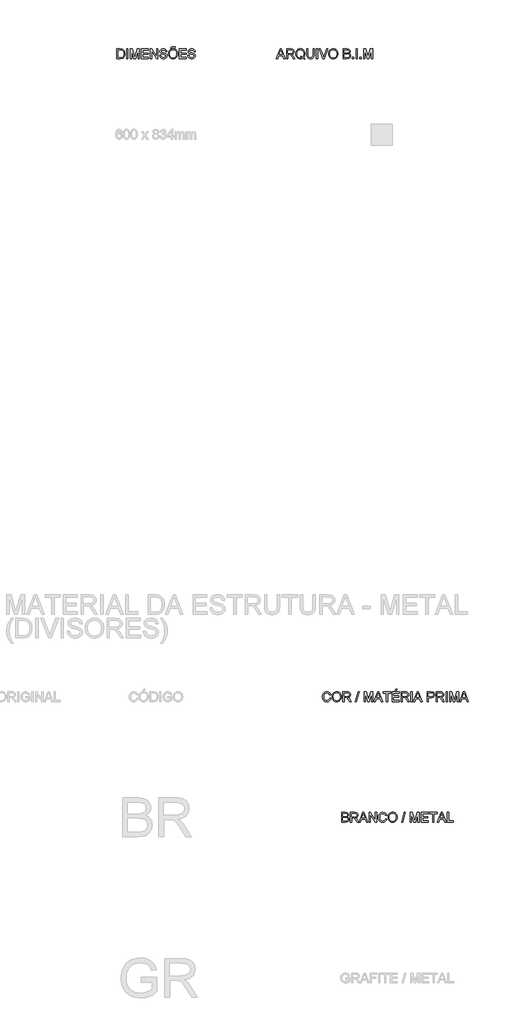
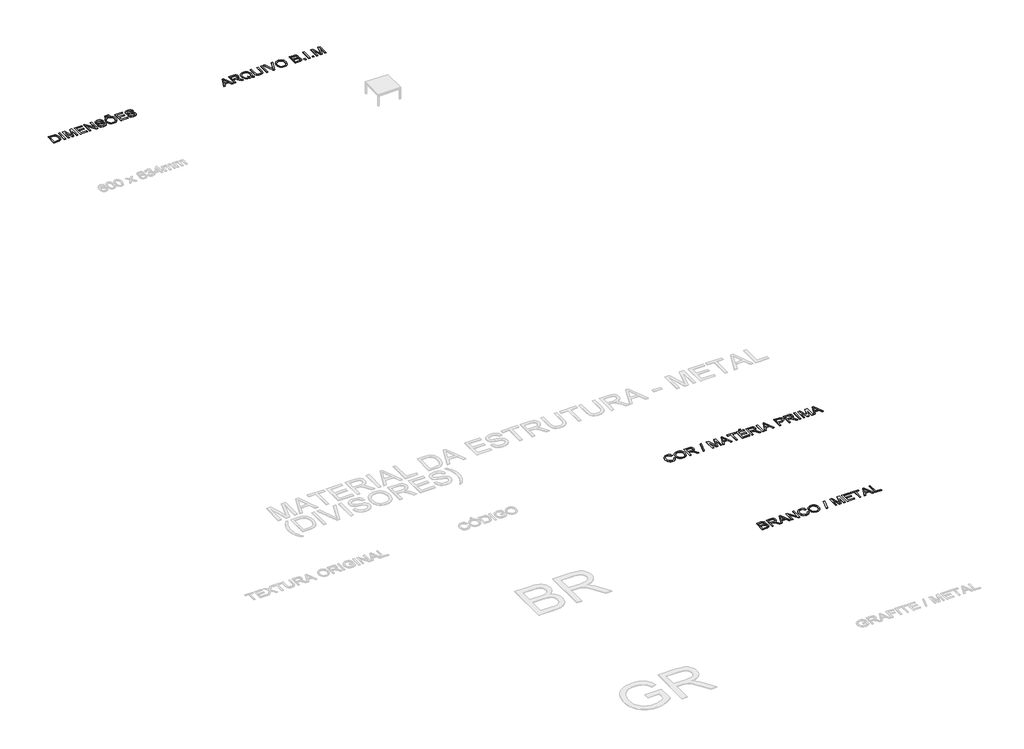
# One storey, part 60 of 67: 4 proxies.
"""IFC4 building model written with IfcOpenShell, lengths in millimetres."""

from ifc_helpers import new_model, si_unit, origin, origin_with_axes, place, context, project, spatial, polyline, outline, extrude, element, save

model = new_model("IFC4")

# Units and contexts
model_context = context("Model", 3, world=origin())
ifc_project = project(units=[si_unit("LENGTHUNIT", "METRE", prefix="MILLI")], contexts=[model_context])

# Site, building, storey
site = spatial("IfcSite", under=ifc_project)
building = spatial("IfcBuilding", under=site)
storey = spatial("IfcBuildingStorey", under=building, Name="Marelli - Linha COLAB - Planta Baixa", Elevation=0.0)

# Proxies
placement = place(None, origin())
element("IfcBuildingElementProxy", 1, Name="300mm Arial", ObjectType="300mm Arial", at=placement, inside=storey, context=model_context, shape_type="SweptSolid", body=[
    extrude(outline(polyline([(24684.665269, -3780.5663201), (24684.665269, -3479.1973896), (24788.6287208, -3479.1973896), (24842.4130685, -3483.5383972), (24866.4357628, -3491.9077126), (24886.7060607, -3505.0962821), (24907.5465757, -3528.0521186), (24922.3906142, -3556.5997614), (24931.2749644, -3590.1873876), (24934.2364145, -3628.2631741), (24932.2314576, -3660.6091985), (24926.216587, -3689.0740679), (24917.0563253, -3713.3082943), (24905.6151953, -3732.9623899), (24892.4450198, -3748.477813), (24878.097622, -3760.2960221), (24861.6257057, -3769.0608107), (24842.0819747, -3775.4159721), (24793.6319159, -3780.5663201), (24684.665269, -3780.5663201)]), holes=[polyline([(24722.3363853, -3742.8952038), (24788.9966028, -3742.8952038), (24816.5693583, -3741.5340404), (24837.4834498, -3737.4505502), (24853.2655873, -3730.8838566), (24865.4424814, -3722.0730828), (24878.5298834, -3705.7667134), (24888.3615297, -3684.6594839), (24894.5143561, -3658.6594239), (24896.5652982, -3627.6745629), (24892.5461874, -3586.6189322), (24880.488855, -3556.3054558), (24862.6741694, -3535.4833349), (24841.3829989, -3522.9017706), (24819.7147494, -3518.3768221), (24787.9665332, -3516.8685059), (24722.3363853, -3516.8685059), (24722.3363853, -3742.8952038)])]), origin_with_axes(), (0.0, 0.0, 1.0), 10.0),
    extrude(outline(polyline([(24990.7430889, -3780.5663201), (24990.7430889, -3479.1973896), (25028.4142052, -3479.1973896), (25028.4142052, -3780.5663201), (24990.7430889, -3780.5663201)])), origin_with_axes(), (0.0, 0.0, 1.0), 10.0),
    extrude(outline(polyline([(25103.7564379, -3780.5663201), (25103.7564379, -3479.1973896), (25168.5772454, -3479.1973896), (25230.2342678, -3691.6124536), (25242.6686792, -3735.9790223), (25256.1331603, -3687.9336337), (25316.7601131, -3479.1973896), (25381.5809206, -3479.1973896), (25381.5809206, -3780.5663201), (25343.9098043, -3780.5663201), (25343.9098043, -3516.8685059), (25268.1996897, -3780.5663201), (25217.1376688, -3780.5663201), (25141.4275542, -3516.8685059), (25141.4275542, -3780.5663201), (25103.7564379, -3780.5663201)])), origin_with_axes(), (0.0, 0.0, 1.0), 10.0),
    extrude(outline(polyline([(25447.5053742, -3780.5663201), (25447.5053742, -3479.1973896), (25664.1142929, -3479.1973896), (25664.1142929, -3516.8685059), (25485.1764905, -3516.8685059), (25485.1764905, -3606.3374072), (25654.6965138, -3606.3374072), (25654.6965138, -3644.0085235), (25485.1764905, -3644.0085235), (25485.1764905, -3742.8952038), (25668.8231825, -3742.8952038), (25668.8231825, -3780.5663201), (25447.5053742, -3780.5663201)])), origin_with_axes(), (0.0, 0.0, 1.0), 10.0),
    extrude(outline(polyline([(25725.3298569, -3780.5663201), (25725.3298569, -3479.1973896), (25765.6497236, -3479.1973896), (25923.1032175, -3717.9528045), (25923.1032175, -3479.1973896), (25960.7743338, -3479.1973896), (25960.7743338, -3780.5663201), (25920.4544672, -3780.5663201), (25763.0009732, -3541.7373288), (25763.0009732, -3780.5663201), (25725.3298569, -3780.5663201)])), origin_with_axes(), (0.0, 0.0, 1.0), 10.0),
    extrude(outline(polyline([(26012.5721187, -3676.9707502), (26050.2432351, -3676.9707502), (26054.5658485, -3697.8756446), (26062.3833409, -3714.6786547), (26074.578629, -3728.0143771), (26092.0346297, -3738.517408), (26113.3717854, -3745.332422), (26137.2105387, -3747.6040933), (26158.1982065, -3745.884245), (26176.5739122, -3740.7247), (26191.463936, -3732.5577197), (26201.9945581, -3721.8155654), (26208.257749, -3709.4823216), (26210.3454794, -3696.5420724), (26208.7819809, -3683.932917), (26204.0914854, -3673.0344129), (26194.5633418, -3663.7361954), (26178.4868986, -3655.9279001), (26123.6356931, -3641.5437141), (26087.6292428, -3632.0247675), (26064.5906329, -3622.9656733), (26045.8378482, -3610.2921386), (26032.5481111, -3594.9330653), (26024.6294511, -3577.2195472), (26021.9898978, -3557.4826782), (26025.2548505, -3535.4189555), (26035.0497087, -3514.845155), (26051.1169548, -3497.4075484), (26073.1990716, -3484.7524077), (26099.7049693, -3477.054477), (26129.0435584, -3474.4885001), (26160.8285628, -3477.1740386), (26188.6404416, -3485.2306543), (26211.4859135, -3498.4928003), (26228.3716971, -3516.7949295), (26239.0586691, -3538.9966079), (26243.3077061, -3563.9574013), (26205.6365898, -3563.9574013), (26198.7204083, -3541.4798114), (26184.2994341, -3525.2562154), (26161.7666619, -3515.4337661), (26130.5150864, -3512.1596164), (26098.5277469, -3515.3969779), (26076.5835859, -3525.1090626), (26063.8916571, -3539.4012781), (26059.6610141, -3556.3790322), (26062.6592524, -3570.8551887), (26071.6539672, -3582.4986539), (26092.9175465, -3592.9097143), (26133.1638368, -3603.541504), (26174.697714, -3613.6398648), (26199.8240543, -3622.4506385), (26221.2991658, -3636.1174547), (26236.28116, -3652.9848441), (26245.0827367, -3672.868866), (26248.0165957, -3695.5855792), (26244.6412784, -3718.8081301), (26234.5153264, -3740.6511236), (26218.0526072, -3759.4498935), (26195.6669877, -3773.539774), (26168.7472227, -3782.3413507), (26138.6820667, -3785.2752096), (26101.7743055, -3782.1114244), (26071.3964498, -3772.620069), (26047.1990115, -3756.764355), (26028.8325029, -3734.5074943), (26017.041885, -3707.3945912), (26012.5721187, -3676.9707502)])), origin_with_axes(), (0.0, 0.0, 1.0), 10.0),
    extrude(outline(polyline([(26290.3966015, -3633.8549804), (26292.9073961, -3598.5061192), (26300.43978, -3567.213157), (26312.9937531, -3539.9760937), (26330.5693154, -3516.7949295), (26352.1134047, -3498.2858666), (26376.5729589, -3485.0651074), (26403.9479778, -3477.1326519), (26434.2384616, -3474.4885001), (26473.767382, -3479.454907), (26509.2128122, -3494.3541278), (26538.6433718, -3518.1376988), (26560.1276804, -3549.7571563), (26573.2610676, -3587.68579), (26577.6388633, -3630.3968896), (26573.0311413, -3673.6782064), (26559.2079754, -3712.140269), (26536.9327206, -3743.8149088), (26506.9687321, -3766.733957), (26471.8268045, -3780.6398965), (26434.0177324, -3785.2752096), (26393.8818067, -3780.1524528), (26358.2340414, -3764.7841825), (26328.8770582, -3740.5591531), (26307.6134789, -3708.8661192), (26294.7008208, -3672.3998164), (26290.3966015, -3633.8549804)]), holes=[polyline([(26328.0677178, -3634.2228624), (26329.9508138, -3659.1974513), (26335.6001017, -3681.3669401), (26345.0155815, -3700.7313286), (26358.1972532, -3717.2906169), (26374.2208134, -3730.5527628), (26392.1619584, -3740.0257242), (26412.0206884, -3745.709501), (26433.7970032, -3747.6040933), (26455.9457986, -3745.6911069), (26476.0390533, -3739.9521478), (26494.0767674, -3730.3872159), (26510.0589408, -3716.9963113), (26523.1440435, -3700.0875351), (26532.4905455, -3679.9689885), (26538.0984466, -3656.6406715), (26539.967747, -3630.102584), (26536.7671737, -3596.7540812), (26527.1654536, -3567.9305269), (26511.4109072, -3544.358488), (26489.7518547, -3526.7645316), (26463.623036, -3515.8108452), (26434.4591908, -3512.1596164), (26413.4393333, -3513.9185522), (26393.936989, -3519.1953595), (26375.952158, -3527.9900385), (26359.4848402, -3540.302589), (26345.7398492, -3556.7262208), (26335.9219984, -3577.8541437), (26330.031288, -3603.6863575), (26328.0677178, -3634.2228624)])]), origin_with_axes(), (0.0, 0.0, 1.0), 10.0),
    extrude(outline(polyline([(26365.7388341, -3460.3618315), (26368.5899196, -3437.2036599), (26377.4374816, -3419.2326244), (26390.7732039, -3407.6995239), (26407.383076, -3403.855157), (26421.2890154, -3406.8901835), (26437.5493996, -3415.9952628), (26452.7797142, -3422.6907152), (26460.7627535, -3418.9015306), (26464.6255144, -3403.855157), (26497.5877412, -3403.855157), (26494.3043944, -3428.5768271), (26485.6315763, -3446.2351629), (26472.7281154, -3456.8301643), (26456.7528397, -3460.3618315), (26442.7549298, -3457.4923519), (26426.9543981, -3448.8839132), (26411.0618959, -3441.5262733), (26402.0855752, -3446.3087393), (26398.7010609, -3460.3618315), (26365.7388341, -3460.3618315)])), origin_with_axes(), (0.0, 0.0, 1.0), 10.0),
    extrude(outline(polyline([(26629.4366483, -3780.5663201), (26629.4366483, -3479.1973896), (26846.045567, -3479.1973896), (26846.045567, -3516.8685059), (26667.1077646, -3516.8685059), (26667.1077646, -3606.3374072), (26836.6277879, -3606.3374072), (26836.6277879, -3644.0085235), (26667.1077646, -3644.0085235), (26667.1077646, -3742.8952038), (26850.7544566, -3742.8952038), (26850.7544566, -3780.5663201), (26629.4366483, -3780.5663201)])), origin_with_axes(), (0.0, 0.0, 1.0), 10.0),
    extrude(outline(polyline([(26893.1344624, -3676.9707502), (26930.8055787, -3676.9707502), (26935.1281922, -3697.8756446), (26942.9456845, -3714.6786547), (26955.1409727, -3728.0143771), (26972.5969734, -3738.517408), (26993.9341291, -3745.332422), (27017.7728824, -3747.6040933), (27038.7605502, -3745.884245), (27057.1362559, -3740.7247), (27072.0262796, -3732.5577197), (27082.5569017, -3721.8155654), (27088.8200927, -3709.4823216), (27090.907823, -3696.5420724), (27089.3443245, -3683.932917), (27084.6538291, -3673.0344129), (27075.1256854, -3663.7361954), (27059.0492422, -3655.9279001), (27004.1980367, -3641.5437141), (26968.1915865, -3632.0247675), (26945.1529765, -3622.9656733), (26926.4001918, -3610.2921386), (26913.1104547, -3594.9330653), (26905.1917948, -3577.2195472), (26902.5522415, -3557.4826782), (26905.8171942, -3535.4189555), (26915.6120523, -3514.845155), (26931.6792984, -3497.4075484), (26953.7614152, -3484.7524077), (26980.267313, -3477.054477), (27009.6059021, -3474.4885001), (27041.3909065, -3477.1740386), (27069.2027853, -3485.2306543), (27092.0482572, -3498.4928003), (27108.9340408, -3516.7949295), (27119.6210127, -3538.9966079), (27123.8700498, -3563.9574013), (27086.1989335, -3563.9574013), (27079.282752, -3541.4798114), (27064.8617777, -3525.2562154), (27042.3290055, -3515.4337661), (27011.0774301, -3512.1596164), (26979.0900906, -3515.3969779), (26957.1459296, -3525.1090626), (26944.4540007, -3539.4012781), (26940.2233578, -3556.3790322), (26943.221596, -3570.8551887), (26952.2163108, -3582.4986539), (26973.4798901, -3592.9097143), (27013.7261804, -3603.541504), (27055.2600577, -3613.6398648), (27080.3863979, -3622.4506385), (27101.8615094, -3636.1174547), (27116.8435037, -3652.9848441), (27125.6450804, -3672.868866), (27128.5789393, -3695.5855792), (27125.203622, -3718.8081301), (27115.0776701, -3740.6511236), (27098.6149508, -3759.4498935), (27076.2293314, -3773.539774), (27049.3095664, -3782.3413507), (27019.2444103, -3785.2752096), (26982.3366492, -3782.1114244), (26951.9587934, -3772.620069), (26927.7613552, -3756.764355), (26909.3948466, -3734.5074943), (26897.6042286, -3707.3945912), (26893.1344624, -3676.9707502)])), origin_with_axes(), (0.0, 0.0, 1.0), 10.0),
])
element("IfcBuildingElementProxy", 2, Name="300mm Arial", ObjectType="300mm Arial", at=placement, inside=storey, context=model_context, shape_type="SweptSolid", body=[
    extrude(outline(polyline([(29649.579499, -3780.5663201), (29769.8769114, -3479.1973896), (29801.9562214, -3479.1973896), (29922.2536338, -3780.5663201), (29882.448802, -3780.5663201), (29847.9414708, -3686.3885293), (29723.8180857, -3686.3885293), (29689.3843309, -3780.5663201), (29649.579499, -3780.5663201)]), holes=[polyline([(29737.6504487, -3648.717413), (29834.1826842, -3648.717413), (29807.032993, -3574.6259792), (29785.9165664, -3516.8685059), (29767.1545847, -3568.1512561), (29737.6504487, -3648.717413)])]), origin_with_axes(), (0.0, 0.0, 1.0), 10.0),
    extrude(outline(polyline([(29962.4999241, -3780.5663201), (29962.4999241, -3479.1973896), (30092.3622684, -3479.1973896), (30127.2650727, -3481.2299376), (30152.6581274, -3487.3275817), (30171.2177741, -3498.5847708), (30185.6203542, -3516.0959537), (30194.8633893, -3537.8101885), (30197.944401, -3561.6765329), (30192.8400384, -3591.3646099), (30177.5269503, -3615.9759154), (30165.9271711, -3626.0052983), (30151.5452844, -3634.0205273), (30114.4351881, -3644.0085235), (30135.8459202, -3660.1217548), (30166.3801258, -3698.8965171), (30216.6328064, -3780.5663201), (30172.854849, -3780.5663201), (30133.6386283, -3718.0999573), (30105.3117146, -3676.750021), (30085.4092987, -3657.2154871), (30067.4934455, -3650.0417882), (30045.641255, -3648.717413), (30000.1710404, -3648.717413), (30000.1710404, -3780.5663201), (29962.4999241, -3780.5663201)]), holes=[polyline([(30000.1710404, -3611.0462967), (30084.4895937, -3611.0462967), (30108.7054261, -3609.7127245), (30127.494999, -3605.7120078), (30141.6400617, -3598.7774322), (30151.9223634, -3588.6422832), (30158.1855544, -3576.3826157), (30160.2732847, -3563.0744845), (30156.2909621, -3544.6987789), (30144.3439943, -3529.8915286), (30123.7885879, -3520.1242616), (30093.9809492, -3516.8685059), (30000.1710404, -3516.8685059), (30000.1710404, -3611.0462967)])]), origin_with_axes(), (0.0, 0.0, 1.0), 10.0),
    extrude(outline(polyline([(30490.2634344, -3744.4403081), (30514.5988284, -3763.036743), (30536.9844478, -3775.8574305), (30526.8309047, -3803.4485802), (30495.7632702, -3789.0460001), (30464.8060003, -3768.205485), (30429.9491813, -3781.0077785), (30391.5974833, -3785.2752096), (30353.0618443, -3780.3547879), (30318.2418135, -3765.5935229), (30289.0779683, -3741.9203165), (30267.5108863, -3710.2640708), (30254.184361, -3672.3630282), (30249.742186, -3629.9554312), (30254.175164, -3587.511046), (30267.4740981, -3549.0581805), (30288.9584066, -3516.9512794), (30317.9475079, -3493.5447874), (30352.63878, -3479.2525719), (30391.2296013, -3474.4885001), (30430.1239252, -3479.3629365), (30464.9899413, -3493.9862458), (30493.9330573, -3517.3835407), (30515.0586809, -3548.5799339), (30527.9713389, -3585.9199564), (30532.2755583, -3627.7481393), (30529.6635961, -3662.5313819), (30521.8277096, -3693.5990164), (30508.7127165, -3720.9142546), (30490.2634344, -3744.4403081)]), holes=[polyline([(30401.9717556, -3694.3347804), (30433.6463953, -3706.3093393), (30459.214194, -3722.9559996), (30474.6974275, -3705.4816049), (30485.75688, -3684.1076609), (30492.3925514, -3658.8341679), (30494.6044419, -3629.6611256), (30491.477445, -3596.5057608), (30482.0964541, -3567.8201623), (30466.6913956, -3544.3308969), (30445.4921956, -3526.7645316), (30419.933594, -3515.8108452), (30391.4503305, -3512.1596164), (30369.966022, -3514.0059242), (30350.3946998, -3519.5448474), (30332.7363641, -3528.7763863), (30316.9910147, -3541.7005406), (30304.0507655, -3558.2897193), (30294.8077304, -3578.5163313), (30289.2619093, -3602.3803764), (30287.4133023, -3629.8818548), (30289.2412159, -3656.6659634), (30294.7249569, -3680.1437324), (30303.8645252, -3700.3151621), (30316.6599209, -3717.1802523), (30332.2972049, -3730.4906827), (30349.9624385, -3739.9981331), (30369.6556215, -3745.7026032), (30391.3767541, -3747.6040933), (30412.2908455, -3745.6727128), (30431.91735, -3739.8785714), (30412.6219393, -3729.853787), (30392.2596709, -3723.1767288), (30401.9717556, -3694.3347804)])]), origin_with_axes(), (0.0, 0.0, 1.0), 10.0),
    extrude(outline(polyline([(30786.5555933, -3479.1973896), (30824.2267096, -3479.1973896), (30824.2267096, -3653.0584205), (30821.6699298, -3693.7737604), (30813.9995902, -3725.1265034), (30799.6705864, -3749.3147446), (30777.1378142, -3768.5365788), (30746.3460912, -3781.0905519), (30707.2402352, -3785.2752096), (30668.9897047, -3781.6331779), (30638.4095139, -3770.7070826), (30615.4904656, -3752.8740029), (30600.2233628, -3728.5110178), (30591.6425152, -3695.8338995), (30588.7822327, -3653.0584205), (30588.7822327, -3479.1973896), (30626.453349, -3479.1973896), (30626.453349, -3651.7340454), (30628.3111531, -3685.588386), (30633.8845653, -3709.1604248), (30643.9829261, -3725.4851883), (30659.4155758, -3737.597703), (30679.5387209, -3745.1024957), (30703.708568, -3747.6040933), (30742.0234778, -3742.6560805), (30756.3662771, -3736.4710644), (30767.499306, -3727.812042), (30775.8364317, -3715.6351479), (30781.7915215, -3698.8965171), (30786.5555933, -3651.7340454), (30786.5555933, -3479.1973896)])), origin_with_axes(), (0.0, 0.0, 1.0), 10.0),
    extrude(outline(polyline([(30894.8600527, -3780.5663201), (30894.8600527, -3479.1973896), (30932.531169, -3479.1973896), (30932.531169, -3780.5663201), (30894.8600527, -3780.5663201)])), origin_with_axes(), (0.0, 0.0, 1.0), 10.0),
    extrude(outline(polyline([(31096.9008444, -3780.5663201), (30976.971314, -3479.1973896), (31017.2911807, -3479.1973896), (31097.563032, -3696.3213432), (31113.8234162, -3745.2496485), (31129.8630712, -3696.3213432), (31210.3556518, -3479.1973896), (31250.6755184, -3479.1973896), (31135.8227595, -3780.5663201), (31096.9008444, -3780.5663201)])), origin_with_axes(), (0.0, 0.0, 1.0), 10.0),
    extrude(outline(polyline([(31271.5712158, -3633.8549804), (31274.0820104, -3598.5061192), (31281.6143942, -3567.213157), (31294.1683673, -3539.9760937), (31311.7439296, -3516.7949295), (31333.288019, -3498.2858666), (31357.7475731, -3485.0651074), (31385.1225921, -3477.1326519), (31415.4130759, -3474.4885001), (31454.9419963, -3479.454907), (31490.3874265, -3494.3541278), (31519.8179861, -3518.1376988), (31541.3022946, -3549.7571563), (31554.4356819, -3587.68579), (31558.8134776, -3630.3968896), (31554.2057556, -3673.6782064), (31540.3825896, -3712.140269), (31518.1073348, -3743.8149088), (31488.1433463, -3766.733957), (31453.0014187, -3780.6398965), (31415.1923467, -3785.2752096), (31375.056421, -3780.1524528), (31339.4086557, -3764.7841825), (31310.0516725, -3740.5591531), (31288.7880931, -3708.8661192), (31275.8754351, -3672.3998164), (31271.5712158, -3633.8549804)]), holes=[polyline([(31309.2423321, -3634.2228624), (31311.125428, -3659.1974513), (31316.7747159, -3681.3669401), (31326.1901957, -3700.7313286), (31339.3718675, -3717.2906169), (31355.3954276, -3730.5527628), (31373.3365727, -3740.0257242), (31393.1953026, -3745.709501), (31414.9716175, -3747.6040933), (31437.1204129, -3745.6911069), (31457.2136676, -3739.9521478), (31475.2513817, -3730.3872159), (31491.2335551, -3716.9963113), (31504.3186578, -3700.0875351), (31513.6651597, -3679.9689885), (31519.2730609, -3656.6406715), (31521.1423613, -3630.102584), (31517.9417879, -3596.7540812), (31508.3400679, -3567.9305269), (31492.5855214, -3544.358488), (31470.9264689, -3526.7645316), (31444.7976502, -3515.8108452), (31415.6338051, -3512.1596164), (31394.6139476, -3513.9185522), (31375.1116033, -3519.1953595), (31357.1267723, -3527.9900385), (31340.6594545, -3540.302589), (31326.9144634, -3556.7262208), (31317.0966127, -3577.8541437), (31311.2059022, -3603.6863575), (31309.2423321, -3634.2228624)])]), origin_with_axes(), (0.0, 0.0, 1.0), 10.0),
    extrude(outline(polyline([(31728.333501, -3780.5663201), (31728.333501, -3479.1973896), (31843.3334127, -3479.1973896), (31874.9620672, -3481.4138786), (31899.6561461, -3488.0633457), (31918.5836748, -3499.3113377), (31932.9126785, -3515.3234015), (31941.9349844, -3534.1589597), (31944.9424197, -3553.8774346), (31942.413231, -3572.0232141), (31934.8256649, -3589.0837416), (31922.124539, -3604.0105535), (31904.2546711, -3615.7551862), (31925.6010238, -3626.9020107), (31941.3739644, -3643.8613707), (31951.1136402, -3665.5112261), (31954.3601988, -3690.7295368), (31952.1437098, -3711.7447958), (31945.4942427, -3731.2333445), (31935.5706259, -3747.8064284), (31923.5316876, -3760.0752929), (31908.7888167, -3768.9596431), (31890.7534018, -3775.3791839), (31842.4504959, -3780.5663201), (31728.333501, -3780.5663201)]), holes=[polyline([(31766.0046173, -3601.6285176), (31834.7985504, -3601.6285176), (31874.9712642, -3598.3911561), (31889.0335535, -3592.8085468), (31899.1411113, -3584.4484284), (31905.2387554, -3573.4395597), (31907.2713034, -3559.9106994), (31905.3767111, -3546.7773121), (31899.6929343, -3535.3361821), (31890.4774903, -3526.4058467), (31877.9878966, -3520.8048433), (31829.574626, -3516.8685059), (31766.0046173, -3516.8685059), (31766.0046173, -3601.6285176)]), polyline([(31766.0046173, -3742.8952038), (31843.2598363, -3742.8952038), (31871.2188679, -3741.4236758), (31894.8736802, -3733.2199073), (31910.5454532, -3716.4812765), (31915.1531752, -3704.6538704), (31916.6890825, -3691.0974188), (31914.8864607, -3675.3520694), (31909.4785954, -3661.814012), (31900.0332252, -3651.2282076), (31886.1180887, -3644.3396173), (31866.4088108, -3640.5596298), (31839.5810163, -3639.2996339), (31766.0046173, -3639.2996339), (31766.0046173, -3742.8952038)])]), origin_with_axes(), (0.0, 0.0, 1.0), 10.0),
    extrude(outline(polyline([(32010.8668733, -3780.5663201), (32010.8668733, -3742.8952038), (32048.5379896, -3742.8952038), (32048.5379896, -3780.5663201), (32010.8668733, -3780.5663201)])), origin_with_axes(), (0.0, 0.0, 1.0), 10.0),
    extrude(outline(polyline([(32128.5891117, -3780.5663201), (32128.5891117, -3479.1973896), (32166.260228, -3479.1973896), (32166.260228, -3780.5663201), (32128.5891117, -3780.5663201)])), origin_with_axes(), (0.0, 0.0, 1.0), 10.0),
    extrude(outline(polyline([(32246.3113502, -3780.5663201), (32246.3113502, -3742.8952038), (32283.9824665, -3742.8952038), (32283.9824665, -3780.5663201), (32246.3113502, -3780.5663201)])), origin_with_axes(), (0.0, 0.0, 1.0), 10.0),
    extrude(outline(polyline([(32359.3246991, -3780.5663201), (32359.3246991, -3479.1973896), (32424.1455066, -3479.1973896), (32485.802529, -3691.6124536), (32498.2369405, -3735.9790223), (32511.7014215, -3687.9336337), (32572.3283743, -3479.1973896), (32637.1491819, -3479.1973896), (32637.1491819, -3780.5663201), (32599.4780655, -3780.5663201), (32599.4780655, -3516.8685059), (32523.7679509, -3780.5663201), (32472.70593, -3780.5663201), (32396.9958154, -3516.8685059), (32396.9958154, -3780.5663201), (32359.3246991, -3780.5663201)])), origin_with_axes(), (0.0, 0.0, 1.0), 10.0),
])
element("IfcBuildingElementProxy", 3, Name="300mm Arial", ObjectType="300mm Arial", at=placement, inside=storey, context=model_context, shape_type="SweptSolid", body=[
    extrude(outline(polyline([(31304.1029253, -23673.4390831), (31341.7740416, -23683.1511677), (31334.3198327, -23706.5783531), (31324.3916173, -23727.0486868), (31311.9893956, -23744.5621691), (31297.1131674, -23759.1187997), (31280.0986251, -23770.5622291), (31261.2814611, -23778.7361071), (31240.6616752, -23783.640434), (31218.2392676, -23785.2752096), (31174.5440836, -23780.3271968), (31139.8436145, -23765.4831583), (31113.2457462, -23741.2581289), (31093.8583651, -23708.1671434), (31082.0217619, -23669.2636224), (31078.0762275, -23627.6009865), (31082.5367967, -23583.6574821), (31095.9185042, -23545.7104543), (31117.5223744, -23514.9647166), (31146.6494314, -23492.6250824), (31181.1935507, -23479.0226457), (31219.048608, -23474.4885001), (31260.352559, -23480.3562179), (31278.3212952, -23487.6908652), (31294.5012052, -23497.9593714), (31308.6255746, -23510.8904235), (31320.4276888, -23526.2127086), (31337.0651521, -23564.0309777), (31299.3940358, -23573.0072984), (31286.3342249, -23545.5357104), (31268.4919482, -23526.6909552), (31245.6464763, -23515.7924511), (31217.57708, -23512.1596164), (31185.2218586, -23516.1879242), (31158.6423844, -23528.2728478), (31138.473254, -23547.1451941), (31125.3490638, -23571.5357704), (31118.1477738, -23599.1085259), (31115.7473438, -23627.5274101), (31118.5892322, -23662.3290468), (31127.1148974, -23692.421794), (31141.6462362, -23716.6560205), (31162.5051454, -23733.8820949), (31187.511924, -23744.1735937), (31214.4868713, -23747.6040933), (31245.9315848, -23742.931992), (31272.1339799, -23728.9156879), (31291.9168342, -23705.702334), (31304.1029253, -23673.4390831)])), origin_with_axes(), (0.0, 0.0, 1.0), 10.0),
    extrude(outline(polyline([(31379.4451579, -23633.8549804), (31381.9559525, -23598.5061192), (31389.4883364, -23567.213157), (31402.0423095, -23539.9760937), (31419.6178718, -23516.7949295), (31441.1619611, -23498.2858666), (31465.6215153, -23485.0651074), (31492.9965342, -23477.1326519), (31523.287018, -23474.4885001), (31562.8159384, -23479.454907), (31598.2613686, -23494.3541278), (31627.6919283, -23518.1376988), (31649.1762368, -23549.7571563), (31662.309624, -23587.68579), (31666.6874197, -23630.3968896), (31662.0796978, -23673.6782064), (31648.2565318, -23712.140269), (31625.981277, -23743.8149087), (31596.0172885, -23766.733957), (31560.8753609, -23780.6398965), (31523.0662888, -23785.2752096), (31482.9303632, -23780.1524528), (31447.2825978, -23764.7841825), (31417.9256146, -23740.5591531), (31396.6620353, -23708.8661192), (31383.7493773, -23672.3998164), (31379.4451579, -23633.8549804)]), holes=[polyline([(31417.1162742, -23634.2228624), (31418.9993702, -23659.1974513), (31424.6486581, -23681.3669401), (31434.0641379, -23700.7313286), (31447.2458096, -23717.2906169), (31463.2693698, -23730.5527628), (31481.2105148, -23740.0257242), (31501.0692448, -23745.709501), (31522.8455596, -23747.6040933), (31544.994355, -23745.6911069), (31565.0876097, -23739.9521478), (31583.1253238, -23730.3872159), (31599.1074972, -23716.9963113), (31612.1925999, -23700.0875351), (31621.5391019, -23679.9689885), (31627.1470031, -23656.6406715), (31629.0163034, -23630.102584), (31625.8157301, -23596.7540812), (31616.21401, -23567.9305269), (31600.4594636, -23544.358488), (31578.8004111, -23526.7645316), (31552.6715924, -23515.8108452), (31523.5077472, -23512.1596164), (31502.4878897, -23513.9185522), (31482.9855455, -23519.1953595), (31465.0007144, -23527.9900385), (31448.5333966, -23540.302589), (31434.7884056, -23556.7262208), (31424.9705548, -23577.8541437), (31419.0798444, -23603.6863575), (31417.1162742, -23634.2228624)])]), origin_with_axes(), (0.0, 0.0, 1.0), 10.0),
    extrude(outline(polyline([(31718.4852047, -23780.5663201), (31718.4852047, -23479.1973896), (31848.347549, -23479.1973896), (31883.2503533, -23481.2299376), (31908.643408, -23487.3275817), (31927.2030546, -23498.5847708), (31941.6056347, -23516.0959537), (31950.8486699, -23537.8101885), (31953.9296816, -23561.6765329), (31948.8253189, -23591.3646099), (31933.5122308, -23615.9759154), (31921.9124517, -23626.0052983), (31907.5305649, -23634.0205273), (31870.4204687, -23644.0085235), (31891.8312008, -23660.1217548), (31922.3654064, -23698.8965171), (31972.6180869, -23780.5663201), (31928.8401295, -23780.5663201), (31889.6239088, -23718.0999573), (31861.2969952, -23676.750021), (31841.3945793, -23657.2154871), (31823.4787261, -23650.0417882), (31801.6265356, -23648.717413), (31756.156321, -23648.717413), (31756.156321, -23780.5663201), (31718.4852047, -23780.5663201)]), holes=[polyline([(31756.156321, -23611.0462967), (31840.4748743, -23611.0462967), (31864.6907066, -23609.7127245), (31883.4802795, -23605.7120078), (31897.6253422, -23598.7774322), (31907.907644, -23588.6422832), (31914.170835, -23576.3826157), (31916.2585653, -23563.0744845), (31912.2762427, -23544.6987789), (31900.3292749, -23529.8915286), (31879.7738684, -23520.1242616), (31849.9662297, -23516.8685059), (31756.156321, -23516.8685059), (31756.156321, -23611.0462967)])]), origin_with_axes(), (0.0, 0.0, 1.0), 10.0),
    extrude(outline(polyline([(32104.6141468, -23780.5663201), (32189.3741585, -23479.1973896), (32223.3664548, -23479.1973896), (32138.6064432, -23780.5663201), (32104.6141468, -23780.5663201)])), origin_with_axes(), (0.0, 0.0, 1.0), 10.0),
    extrude(outline(polyline([(32373.0208505, -23780.5663201), (32373.0208505, -23479.1973896), (32437.841658, -23479.1973896), (32499.4986804, -23691.6124536), (32511.9330919, -23735.9790223), (32525.3975729, -23687.9336337), (32586.0245257, -23479.1973896), (32650.8453332, -23479.1973896), (32650.8453332, -23780.5663201), (32613.1742169, -23780.5663201), (32613.1742169, -23516.8685059), (32537.4641023, -23780.5663201), (32486.4020814, -23780.5663201), (32410.6919668, -23516.8685059), (32410.6919668, -23780.5663201), (32373.0208505, -23780.5663201)])), origin_with_axes(), (0.0, 0.0, 1.0), 10.0),
    extrude(outline(polyline([(32681.6738444, -23780.5663201), (32801.9712569, -23479.1973896), (32834.0505668, -23479.1973896), (32954.3479793, -23780.5663201), (32914.5431474, -23780.5663201), (32880.0358162, -23686.3885293), (32755.9124311, -23686.3885293), (32721.4786763, -23780.5663201), (32681.6738444, -23780.5663201)]), holes=[polyline([(32769.7447941, -23648.717413), (32866.2770296, -23648.717413), (32839.1273384, -23574.6259792), (32818.0109119, -23516.8685059), (32799.2489301, -23568.1512561), (32769.7447941, -23648.717413)])]), origin_with_axes(), (0.0, 0.0, 1.0), 10.0),
    extrude(outline(polyline([(33069.9365021, -23780.5663201), (33069.9365021, -23516.8685059), (32971.0498218, -23516.8685059), (32971.0498218, -23479.1973896), (33206.4942988, -23479.1973896), (33206.4942988, -23516.8685059), (33107.6076185, -23516.8685059), (33107.6076185, -23780.5663201), (33069.9365021, -23780.5663201)])), origin_with_axes(), (0.0, 0.0, 1.0), 10.0),
    extrude(outline(polyline([(33248.8743046, -23780.5663201), (33248.8743046, -23479.1973896), (33465.4832234, -23479.1973896), (33465.4832234, -23516.8685059), (33286.5454209, -23516.8685059), (33286.5454209, -23606.3374072), (33456.0654443, -23606.3374072), (33456.0654443, -23644.0085235), (33286.5454209, -23644.0085235), (33286.5454209, -23742.8952038), (33470.1921129, -23742.8952038), (33470.1921129, -23780.5663201), (33248.8743046, -23780.5663201)])), origin_with_axes(), (0.0, 0.0, 1.0), 10.0),
    extrude(outline(polyline([(33333.6343163, -23460.3618315), (33361.8876535, -23403.855157), (33408.9765489, -23403.855157), (33361.8876535, -23460.3618315), (33333.6343163, -23460.3618315)])), origin_with_axes(), (0.0, 0.0, 1.0), 10.0),
    extrude(outline(polyline([(33526.6987874, -23780.5663201), (33526.6987874, -23479.1973896), (33656.5611317, -23479.1973896), (33691.463936, -23481.2299376), (33716.8569907, -23487.3275817), (33735.4166373, -23498.5847708), (33749.8192174, -23516.0959537), (33759.0622526, -23537.8101885), (33762.1432643, -23561.6765329), (33757.0389016, -23591.3646099), (33741.7258135, -23615.9759154), (33730.1260344, -23626.0052983), (33715.7441476, -23634.0205273), (33678.6340514, -23644.0085235), (33700.0447835, -23660.1217548), (33730.5789891, -23698.8965171), (33780.8316696, -23780.5663201), (33737.0537122, -23780.5663201), (33697.8374915, -23718.0999573), (33669.5105779, -23676.750021), (33649.6081619, -23657.2154871), (33631.6923088, -23650.0417882), (33609.8401183, -23648.717413), (33564.3699037, -23648.717413), (33564.3699037, -23780.5663201), (33526.6987874, -23780.5663201)]), holes=[polyline([(33564.3699037, -23611.0462967), (33648.688457, -23611.0462967), (33672.9042893, -23609.7127245), (33691.6938622, -23605.7120078), (33705.8389249, -23598.7774322), (33716.1212267, -23588.6422832), (33722.3844176, -23576.3826157), (33724.472148, -23563.0744845), (33720.4898254, -23544.6987789), (33708.5428576, -23529.8915286), (33687.9874511, -23520.1242616), (33658.1798124, -23516.8685059), (33564.3699037, -23516.8685059), (33564.3699037, -23611.0462967)])]), origin_with_axes(), (0.0, 0.0, 1.0), 10.0),
    extrude(outline(polyline([(33832.7766073, -23780.5663201), (33832.7766073, -23479.1973896), (33870.4477237, -23479.1973896), (33870.4477237, -23780.5663201), (33832.7766073, -23780.5663201)])), origin_with_axes(), (0.0, 0.0, 1.0), 10.0),
    extrude(outline(polyline([(33910.6940139, -23780.5663201), (34030.9914263, -23479.1973896), (34063.0707363, -23479.1973896), (34183.3681488, -23780.5663201), (34143.5633169, -23780.5663201), (34109.0559857, -23686.3885293), (33984.9326006, -23686.3885293), (33950.4988458, -23780.5663201), (33910.6940139, -23780.5663201)]), holes=[polyline([(33998.7649636, -23648.717413), (34095.2971991, -23648.717413), (34068.1475079, -23574.6259792), (34047.0310813, -23516.8685059), (34028.2690996, -23568.1512561), (33998.7649636, -23648.717413)])]), origin_with_axes(), (0.0, 0.0, 1.0), 10.0),
    extrude(outline(polyline([(34341.3366775, -23780.5663201), (34341.3366775, -23479.1973896), (34453.0256512, -23479.1973896), (34498.0544074, -23482.0668692), (34518.1315673, -23487.4287493), (34534.6586659, -23496.1567496), (34547.9667971, -23508.6463433), (34558.3870546, -23525.2930036), (34565.1192951, -23544.9287051), (34567.3633753, -23566.3854225), (34565.8481613, -23584.8852883), (34561.3025194, -23601.9044291), (34553.7264496, -23617.4428449), (34543.1199518, -23631.5005356), (34528.5587226, -23643.1531978), (34509.1184584, -23651.476528), (34484.7991593, -23656.470526), (34455.6008252, -23658.1351921), (34379.0077938, -23658.1351921), (34379.0077938, -23780.5663201), (34341.3366775, -23780.5663201)]), holes=[polyline([(34379.0077938, -23620.4640758), (34457.8081172, -23620.4640758), (34491.2118023, -23617.005985), (34513.284722, -23606.6317127), (34525.5903748, -23589.9850525), (34529.692259, -23567.7097977), (34527.2734349, -23550.7872259), (34520.0169625, -23536.5134045), (34508.8241528, -23525.7712502), (34494.5963167, -23519.4436799), (34456.9252004, -23516.8685059), (34379.0077938, -23516.8685059), (34379.0077938, -23620.4640758)])]), origin_with_axes(), (0.0, 0.0, 1.0), 10.0),
    extrude(outline(polyline([(34619.1611602, -23780.5663201), (34619.1611602, -23479.1973896), (34749.0235045, -23479.1973896), (34783.9263088, -23481.2299376), (34809.3193635, -23487.3275817), (34827.8790102, -23498.5847708), (34842.2815903, -23516.0959537), (34851.5246254, -23537.8101885), (34854.6056372, -23561.6765329), (34849.5012745, -23591.3646099), (34834.1881864, -23615.9759154), (34822.5884073, -23626.0052983), (34808.2065205, -23634.0205273), (34771.0964242, -23644.0085235), (34792.5071564, -23660.1217548), (34823.041362, -23698.8965171), (34873.2940425, -23780.5663201), (34829.5160851, -23780.5663201), (34790.2998644, -23718.0999573), (34761.9729508, -23676.750021), (34742.0705348, -23657.2154871), (34724.1546817, -23650.0417882), (34702.3024911, -23648.717413), (34656.8322765, -23648.717413), (34656.8322765, -23780.5663201), (34619.1611602, -23780.5663201)]), holes=[polyline([(34656.8322765, -23611.0462967), (34741.1508298, -23611.0462967), (34765.3666622, -23609.7127245), (34784.1562351, -23605.7120078), (34798.3012978, -23598.7774322), (34808.5835996, -23588.6422832), (34814.8467905, -23576.3826157), (34816.9345208, -23563.0744845), (34812.9521982, -23544.6987789), (34801.0052305, -23529.8915286), (34780.449824, -23520.1242616), (34750.6421853, -23516.8685059), (34656.8322765, -23516.8685059), (34656.8322765, -23611.0462967)])]), origin_with_axes(), (0.0, 0.0, 1.0), 10.0),
    extrude(outline(polyline([(34925.2389802, -23780.5663201), (34925.2389802, -23479.1973896), (34962.9100965, -23479.1973896), (34962.9100965, -23780.5663201), (34925.2389802, -23780.5663201)])), origin_with_axes(), (0.0, 0.0, 1.0), 10.0),
    extrude(outline(polyline([(35038.2523291, -23780.5663201), (35038.2523291, -23479.1973896), (35103.0731367, -23479.1973896), (35164.7301591, -23691.6124536), (35177.1645705, -23735.9790223), (35190.6290515, -23687.9336337), (35251.2560044, -23479.1973896), (35316.0768119, -23479.1973896), (35316.0768119, -23780.5663201), (35278.4056956, -23780.5663201), (35278.4056956, -23516.8685059), (35202.695581, -23780.5663201), (35151.6335601, -23780.5663201), (35075.9234454, -23516.8685059), (35075.9234454, -23780.5663201), (35038.2523291, -23780.5663201)])), origin_with_axes(), (0.0, 0.0, 1.0), 10.0),
    extrude(outline(polyline([(35346.9053231, -23780.5663201), (35467.2027355, -23479.1973896), (35499.2820455, -23479.1973896), (35619.5794579, -23780.5663201), (35579.774626, -23780.5663201), (35545.2672949, -23686.3885293), (35421.1439097, -23686.3885293), (35386.710155, -23780.5663201), (35346.9053231, -23780.5663201)]), holes=[polyline([(35434.9762727, -23648.717413), (35531.5085083, -23648.717413), (35504.358817, -23574.6259792), (35483.2423905, -23516.8685059), (35464.4804088, -23568.1512561), (35434.9762727, -23648.717413)])]), origin_with_axes(), (0.0, 0.0, 1.0), 10.0),
])
element("IfcBuildingElementProxy", 4, Name="300mm Arial", ObjectType="300mm Arial", at=placement, inside=storey, context=model_context, shape_type="SweptSolid", body=[
    extrude(outline(polyline([(31673.7507541, -27530.5663201), (31673.7507541, -27229.1973896), (31788.7506657, -27229.1973896), (31820.3793203, -27231.4138786), (31845.0733992, -27238.0633457), (31864.0009279, -27249.3113377), (31878.3299316, -27265.3234015), (31887.3522375, -27284.1589597), (31890.3596728, -27303.8774346), (31887.8304841, -27322.0232141), (31880.2429179, -27339.0837416), (31867.5417921, -27354.0105535), (31849.6719241, -27365.7551862), (31871.0182769, -27376.9020107), (31886.7912175, -27393.8613707), (31896.5308933, -27415.5112261), (31899.7774519, -27440.7295368), (31897.5609629, -27461.7447958), (31890.9114958, -27481.2333445), (31880.987879, -27497.8064284), (31868.9489407, -27510.0752929), (31854.2060697, -27518.9596431), (31836.1706549, -27525.3791839), (31787.867749, -27530.5663201), (31673.7507541, -27530.5663201)]), holes=[polyline([(31711.4218704, -27351.6285176), (31780.2158035, -27351.6285176), (31820.3885173, -27348.3911561), (31834.4508066, -27342.8085468), (31844.5583644, -27334.4484284), (31850.6560085, -27323.4395597), (31852.6885565, -27309.9106994), (31850.7939642, -27296.7773121), (31845.1101874, -27285.3361821), (31835.8947434, -27276.4058467), (31823.4051497, -27270.8048433), (31774.9918791, -27266.8685059), (31711.4218704, -27266.8685059), (31711.4218704, -27351.6285176)]), polyline([(31711.4218704, -27492.8952038), (31788.6770893, -27492.8952038), (31816.636121, -27491.4236758), (31840.2909333, -27483.2199073), (31855.9627063, -27466.4812765), (31860.5704283, -27454.6538704), (31862.1063356, -27441.0974188), (31860.3037138, -27425.3520694), (31854.8958485, -27411.814012), (31845.4504783, -27401.2282076), (31831.5353418, -27394.3396173), (31811.8260639, -27390.5596298), (31784.9982694, -27389.2996339), (31711.4218704, -27389.2996339), (31711.4218704, -27492.8952038)])]), origin_with_axes(), (0.0, 0.0, 1.0), 10.0),
    extrude(outline(polyline([(31951.5752368, -27530.5663201), (31951.5752368, -27229.1973896), (32081.4375811, -27229.1973896), (32116.3403854, -27231.2299376), (32141.7334401, -27237.3275817), (32160.2930868, -27248.5847708), (32174.6956669, -27266.0959537), (32183.938702, -27287.8101885), (32187.0197137, -27311.6765329), (32181.915351, -27341.3646099), (32166.602263, -27365.9759154), (32155.0024838, -27376.0052983), (32140.6205971, -27384.0205273), (32103.5105008, -27394.0085235), (32124.9212329, -27410.1217548), (32155.4554385, -27448.8965171), (32205.7081191, -27530.5663201), (32161.9301617, -27530.5663201), (32122.713941, -27468.0999573), (32094.3870273, -27426.750021), (32074.4846114, -27407.2154871), (32056.5687582, -27400.0417882), (32034.7165677, -27398.717413), (31989.2463531, -27398.717413), (31989.2463531, -27530.5663201), (31951.5752368, -27530.5663201)]), holes=[polyline([(31989.2463531, -27361.0462967), (32073.5649064, -27361.0462967), (32097.7807387, -27359.7127245), (32116.5703116, -27355.7120078), (32130.7153744, -27348.7774322), (32140.9976761, -27338.6422832), (32147.2608671, -27326.3826157), (32149.3485974, -27313.0744845), (32145.3662748, -27294.6987789), (32133.419307, -27279.8915286), (32112.8639005, -27270.1242616), (32083.0562619, -27266.8685059), (31989.2463531, -27266.8685059), (31989.2463531, -27361.0462967)])]), origin_with_axes(), (0.0, 0.0, 1.0), 10.0),
    extrude(outline(polyline([(32217.8482249, -27530.5663201), (32338.1456373, -27229.1973896), (32370.2249473, -27229.1973896), (32490.5223597, -27530.5663201), (32450.7175279, -27530.5663201), (32416.2101967, -27436.3885293), (32292.0868115, -27436.3885293), (32257.6530568, -27530.5663201), (32217.8482249, -27530.5663201)]), holes=[polyline([(32305.9191746, -27398.717413), (32402.4514101, -27398.717413), (32375.3017189, -27324.6259792), (32354.1852923, -27266.8685059), (32335.4233106, -27318.1512561), (32305.9191746, -27398.717413)])]), origin_with_axes(), (0.0, 0.0, 1.0), 10.0),
    extrude(outline(polyline([(32530.76865, -27530.5663201), (32530.76865, -27229.1973896), (32571.0885167, -27229.1973896), (32728.5420106, -27467.9528045), (32728.5420106, -27229.1973896), (32766.2131269, -27229.1973896), (32766.2131269, -27530.5663201), (32725.8932603, -27530.5663201), (32568.4397663, -27291.7373288), (32568.4397663, -27530.5663201), (32530.76865, -27530.5663201)])), origin_with_axes(), (0.0, 0.0, 1.0), 10.0),
    extrude(outline(polyline([(33044.0376097, -27423.4390831), (33081.708726, -27433.1511677), (33074.2545171, -27456.5783531), (33064.3263017, -27477.0486868), (33051.92408, -27494.5621691), (33037.0478518, -27509.1187997), (33020.0333095, -27520.5622291), (33001.2161455, -27528.7361071), (32980.5963596, -27533.640434), (32958.173952, -27535.2752096), (32914.478768, -27530.3271968), (32879.7782988, -27515.4831583), (32853.1804306, -27491.2581289), (32833.7930494, -27458.1671434), (32821.9564463, -27419.2636224), (32818.0109119, -27377.6009865), (32822.471481, -27333.6574821), (32835.8531886, -27295.7104543), (32857.4570588, -27264.9647166), (32886.5841158, -27242.6250824), (32921.1282351, -27229.0226457), (32958.9832924, -27224.4885001), (33000.2872434, -27230.3562179), (33018.2559796, -27237.6908652), (33034.4358896, -27247.9593714), (33048.560259, -27260.8904235), (33060.3623732, -27276.2127086), (33076.9998365, -27314.0309777), (33039.3287202, -27323.0072984), (33026.2689093, -27295.5357104), (33008.4266326, -27276.6909552), (32985.5811607, -27265.7924511), (32957.5117644, -27262.1596164), (32925.1565429, -27266.1879242), (32898.5770688, -27278.2728478), (32878.4079384, -27297.1451941), (32865.2837482, -27321.5357704), (32858.0824582, -27349.1085259), (32855.6820282, -27377.5274101), (32858.5239166, -27412.3290468), (32867.0495818, -27442.421794), (32881.5809206, -27466.6560205), (32902.4398297, -27483.8820949), (32927.4466084, -27494.1735937), (32954.4215557, -27497.6040933), (32985.8662692, -27492.931992), (33012.0686643, -27478.9156879), (33031.8515186, -27455.702334), (33044.0376097, -27423.4390831)])), origin_with_axes(), (0.0, 0.0, 1.0), 10.0),
    extrude(outline(polyline([(33119.3798423, -27383.8549804), (33121.8906369, -27348.5061192), (33129.4230208, -27317.213157), (33141.9769939, -27289.9760937), (33159.5525562, -27266.7949295), (33181.0966455, -27248.2858666), (33205.5561997, -27235.0651074), (33232.9312186, -27227.1326519), (33263.2217024, -27224.4885001), (33302.7506228, -27229.454907), (33338.196053, -27244.3541278), (33367.6266126, -27268.1376988), (33389.1109212, -27299.7571563), (33402.2443084, -27337.68579), (33406.6221041, -27380.3968896), (33402.0143821, -27423.6782064), (33388.1912162, -27462.140269), (33365.9159614, -27493.8149087), (33335.9519729, -27516.733957), (33300.8100453, -27530.6398965), (33263.0009732, -27535.2752096), (33222.8650475, -27530.1524528), (33187.2172822, -27514.7841825), (33157.860299, -27490.5591531), (33136.5967197, -27458.8661192), (33123.6840616, -27422.3998164), (33119.3798423, -27383.8549804)]), holes=[polyline([(33157.0509586, -27384.2228624), (33158.9340546, -27409.1974513), (33164.5833425, -27431.3669401), (33173.9988223, -27450.7313286), (33187.180494, -27467.2906169), (33203.2040542, -27480.5527628), (33221.1451992, -27490.0257242), (33241.0039292, -27495.709501), (33262.780244, -27497.6040933), (33284.9290394, -27495.6911069), (33305.0222941, -27489.9521478), (33323.0600082, -27480.3872159), (33339.0421816, -27466.9963113), (33352.1272843, -27450.0875351), (33361.4737863, -27429.9689885), (33367.0816874, -27406.6406715), (33368.9509878, -27380.102584), (33365.7504145, -27346.7540812), (33356.1486944, -27317.9305269), (33340.394148, -27294.358488), (33318.7350955, -27276.7645316), (33292.6062768, -27265.8108452), (33263.4424316, -27262.1596164), (33242.4225741, -27263.9185522), (33222.9202298, -27269.1953595), (33204.9353988, -27277.9900385), (33188.468081, -27290.302589), (33174.72309, -27306.7262208), (33164.9052392, -27327.8541437), (33159.0145288, -27353.6863575), (33157.0509586, -27384.2228624)])]), origin_with_axes(), (0.0, 0.0, 1.0), 10.0),
    extrude(outline(polyline([(33543.1799007, -27530.5663201), (33627.9399124, -27229.1973896), (33661.9322088, -27229.1973896), (33577.1721971, -27530.5663201), (33543.1799007, -27530.5663201)])), origin_with_axes(), (0.0, 0.0, 1.0), 10.0),
    extrude(outline(polyline([(33811.5866044, -27530.5663201), (33811.5866044, -27229.1973896), (33876.407412, -27229.1973896), (33938.0644344, -27441.6124536), (33950.4988458, -27485.9790223), (33963.9633268, -27437.9336337), (34024.5902796, -27229.1973896), (34089.4110872, -27229.1973896), (34089.4110872, -27530.5663201), (34051.7399709, -27530.5663201), (34051.7399709, -27266.8685059), (33976.0298563, -27530.5663201), (33924.9678353, -27530.5663201), (33849.2577207, -27266.8685059), (33849.2577207, -27530.5663201), (33811.5866044, -27530.5663201)])), origin_with_axes(), (0.0, 0.0, 1.0), 10.0),
    extrude(outline(polyline([(34155.3355407, -27530.5663201), (34155.3355407, -27229.1973896), (34371.9444595, -27229.1973896), (34371.9444595, -27266.8685059), (34193.006657, -27266.8685059), (34193.006657, -27356.3374072), (34362.5266804, -27356.3374072), (34362.5266804, -27394.0085235), (34193.006657, -27394.0085235), (34193.006657, -27492.8952038), (34376.653349, -27492.8952038), (34376.653349, -27530.5663201), (34155.3355407, -27530.5663201)])), origin_with_axes(), (0.0, 0.0, 1.0), 10.0),
    extrude(outline(polyline([(34508.5022561, -27530.5663201), (34508.5022561, -27266.8685059), (34409.6155758, -27266.8685059), (34409.6155758, -27229.1973896), (34645.0600527, -27229.1973896), (34645.0600527, -27266.8685059), (34546.1733724, -27266.8685059), (34546.1733724, -27530.5663201), (34508.5022561, -27530.5663201)])), origin_with_axes(), (0.0, 0.0, 1.0), 10.0),
    extrude(outline(polyline([(34652.3441162, -27530.5663201), (34772.6415286, -27229.1973896), (34804.7208386, -27229.1973896), (34925.018251, -27530.5663201), (34885.2134191, -27530.5663201), (34850.706088, -27436.3885293), (34726.5827028, -27436.3885293), (34692.1489481, -27530.5663201), (34652.3441162, -27530.5663201)]), holes=[polyline([(34740.4150658, -27398.717413), (34836.9473014, -27398.717413), (34809.7976101, -27324.6259792), (34788.6811836, -27266.8685059), (34769.9192019, -27318.1512561), (34740.4150658, -27398.717413)])]), origin_with_axes(), (0.0, 0.0, 1.0), 10.0),
    extrude(outline(polyline([(34965.2645413, -27530.5663201), (34965.2645413, -27229.1973896), (35002.9356576, -27229.1973896), (35002.9356576, -27492.8952038), (35153.6201228, -27492.8952038), (35153.6201228, -27530.5663201), (34965.2645413, -27530.5663201)])), origin_with_axes(), (0.0, 0.0, 1.0), 10.0),
])

save(model, "model.ifc")
